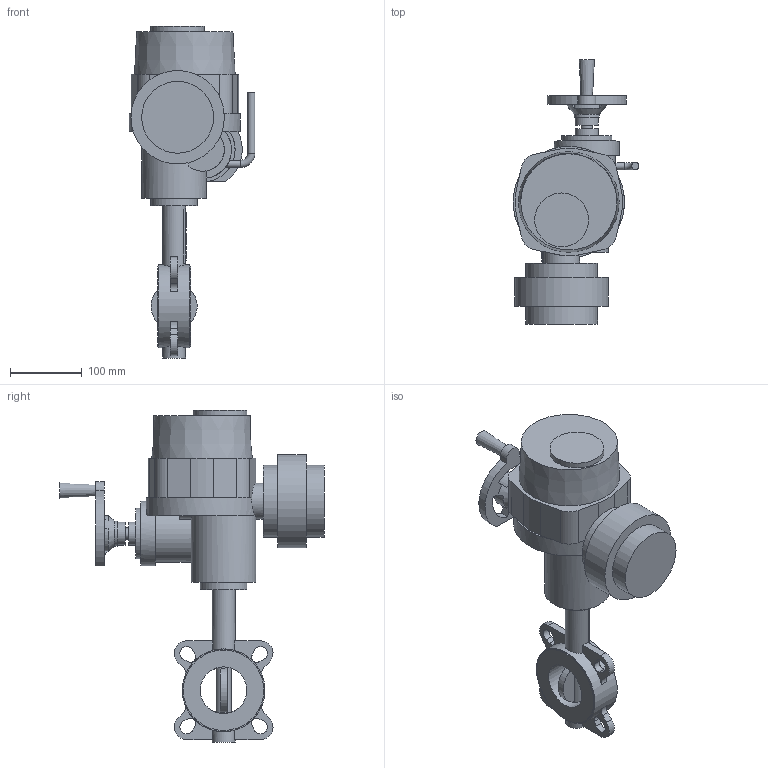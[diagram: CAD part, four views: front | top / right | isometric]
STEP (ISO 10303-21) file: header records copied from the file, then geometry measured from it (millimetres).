
FILE_DESCRIPTION(('STEP AP203'), '1');
FILE_NAME('青蜮铕 017W.ZS DN65+菹 QT.A005', '', ('UNSPECIFIED'), ('UNSPECIFIED'), 'ASCON STEP Converter 1.6', 'ASCON Math Kernel', '');
FILE_SCHEMA(('CONFIG_CONTROL_DESIGN'));
Length unit declared in the file: millimetre
Bounding box: 175 x 368 x 462 mm (x, y, z)
Volume: 4556484.4 mm3; surface area: 327711.5 mm2
Topology: 1 solids, 2 shells, 732 faces, 2093 edges, 1347 vertices
Faces by surface type: cylinder 490, plane 238, cone 3, torus 1
Full cylindrical faces by diameter (mm): 6.7 x8, 8 x4, 10 x2, 12.6 x1, 16 x1, 20 x1, 21 x1, 32 x4, 35 x2, 50 x1, 65 x2, 70 x1, 75 x1, 90 x2, 100 x2, 112 x2, 115 x1, 130 x1
Entity records: 31270 total; most frequent: CARTESIAN_POINT 5411, DIRECTION 4550, ORIENTED_EDGE 4043, EDGE_CURVE 2053, AXIS2_PLACEMENT_3D 1792, VERTEX_POINT 1347, CIRCLE 1059, LINE 966
